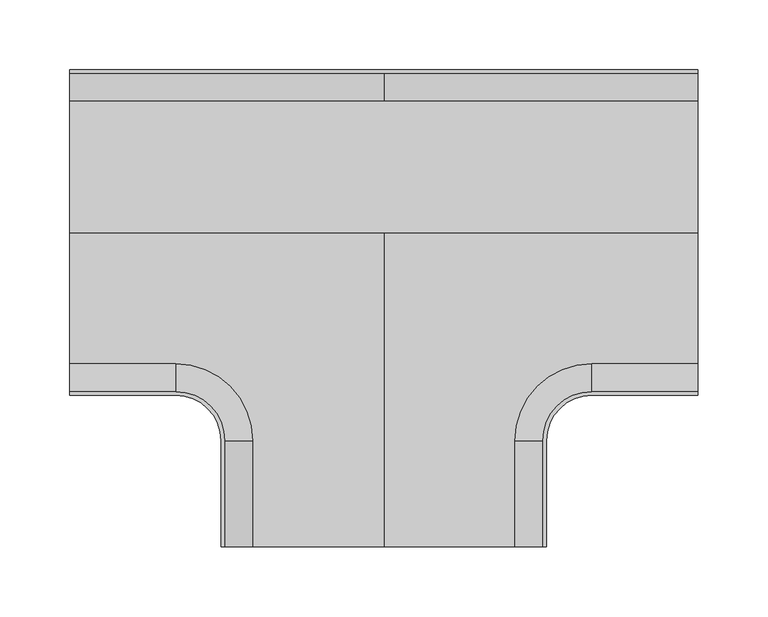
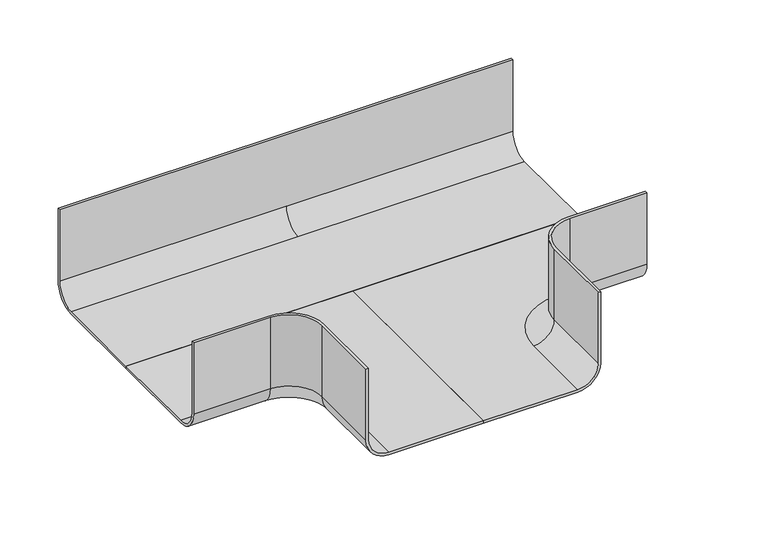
"""IFC4 building model written with IfcOpenShell, lengths in millimetres: cable carrier fitting geometry, ССT_Hyperline_FBTR-TEE Ответвитель Т-образный пластиковый : Ответвитель Т-образный пластиковый."""

import ifcopenshell
import ifcopenshell.guid

model = None  # the IFC model being written
_history = None  # IfcOwnerHistory: only IFC2X3 demands one
_inside = {}  # id of a spatial element -> (the spatial element, [elements in it])
_under = {}  # id of a project, library or spatial element -> (it, [spatial elements below it])
_declared = {}  # id of a project -> (the project, [libraries it declares])
_typed = {}  # id of a type object -> (the type object, [elements of that type])
_made_of = {}  # id of a material, layer set ... -> (it, [elements and type objects made of it])


def new_model(schema):
    """Start an empty IFC model of exactly this schema.

    Asked for "IFC4X3", IfcOpenShell would pick the latest addendum, in which some entities
    have other attributes; the version numbers below select the first issue.
    IFC2X3 requires an IfcOwnerHistory on every rooted entity: one is made here for all.
    """
    global model, _history
    if schema == "IFC4X3":
        model = ifcopenshell.file(schema_version=(4, 3, 0, 0))
    else:
        model = ifcopenshell.file(schema=schema)
    _inside.clear()
    _under.clear()
    _declared.clear()
    _typed.clear()
    _made_of.clear()
    _history = None
    if model.schema == "IFC2X3":
        org = make("IfcOrganization", Name="unknown")
        user = make(
            "IfcPersonAndOrganization",
            ThePerson=make("IfcPerson", FamilyName="unknown"),
            TheOrganization=org,
        )
        app = make(
            "IfcApplication",
            ApplicationDeveloper=org,
            Version="unknown",
            ApplicationFullName="unknown",
            ApplicationIdentifier="unknown",
        )
        _history = make(
            "IfcOwnerHistory",
            OwningUser=user,
            OwningApplication=app,
            ChangeAction="ADDED",
            CreationDate=0,
        )
    return model


def make(cls, **values):
    """One entity of the class cls with the attributes given. An attribute that is None is left unset."""
    return model.create_entity(
        cls, **{name: value for name, value in values.items() if value is not None}
    )


def rooted(cls, **values):
    """An entity with a GlobalId (a new one), such as an element, a storey or a relation."""
    return make(cls, GlobalId=ifcopenshell.guid.new(), OwnerHistory=_history, **values)


def si_unit(unit_type, name, prefix=None):
    """IfcSIUnit, for example si_unit("LENGTHUNIT", "METRE", prefix="MILLI")."""
    return make("IfcSIUnit", UnitType=unit_type, Prefix=prefix, Name=name)


def assignment(units):
    """IfcUnitAssignment: the units of a project."""
    return None if units is None else make("IfcUnitAssignment", Units=units)


def point(xyz):
    """IfcCartesianPoint."""
    return None if xyz is None else make("IfcCartesianPoint", Coordinates=xyz)


def direction(xyz):
    """IfcDirection."""
    return None if xyz is None else make("IfcDirection", DirectionRatios=xyz)


def frame(location, z_axis=None, x_axis=None):
    """IfcAxis2Placement3D, a coordinate frame: its origin and axes. An axis left out is left unset."""
    return make(
        "IfcAxis2Placement3D",
        Location=point(location),
        Axis=direction(z_axis),
        RefDirection=direction(x_axis),
    )


def origin():
    """The frame at (0, 0, 0) with its axes left unset."""
    return frame((0.0, 0.0, 0.0))


def place(relative_to, where):
    """IfcLocalPlacement: puts the frame where relative to a parent placement (None: the world)."""
    return make(
        "IfcLocalPlacement", PlacementRelTo=relative_to, RelativePlacement=where
    )


def context(
    kind, dimensions, precision=None, world=None, true_north=None, identifier=None
):
    """IfcGeometricRepresentationContext, for example the 3D "Model" context."""
    return make(
        "IfcGeometricRepresentationContext",
        ContextIdentifier=identifier,
        ContextType=kind,
        CoordinateSpaceDimension=dimensions,
        Precision=precision,
        WorldCoordinateSystem=world,
        TrueNorth=true_north,
    )


def project(units=None, contexts=None):
    """IfcProject with its units and contexts."""
    return rooted(
        "IfcProject",
        Name="project",
        RepresentationContexts=contexts,
        UnitsInContext=assignment(units),
    )


def spatial(cls, under=None, at=None, **own):
    """A site, building, storey or space (cls), placed at a placement, below another one or the project."""
    s = rooted(cls, ObjectPlacement=at, **own)
    if under is not None:
        _under.setdefault(under.id(), (under, []))[1].append(s)
    return s


def polyline(points):
    """IfcPolyline through the points."""
    return make("IfcPolyline", Points=[point(p) for p in points])


def circle_curve(where, radius):
    """IfcCircle in the frame where."""
    return make("IfcCircle", Position=where, Radius=radius)


def ellipse_curve(where, semi_axis1, semi_axis2):
    """IfcEllipse in the frame where."""
    return make(
        "IfcEllipse", Position=where, SemiAxis1=semi_axis1, SemiAxis2=semi_axis2
    )


def trimmed(basis, trim1, trim2, sense, master):
    """IfcTrimmedCurve: the piece of a basis curve between two trims."""
    return make(
        "IfcTrimmedCurve",
        BasisCurve=basis,
        Trim1=trim1,
        Trim2=trim2,
        SenseAgreement=sense,
        MasterRepresentation=master,
    )


def shape(context_of_items, identifier, shape_type, items):
    """IfcShapeRepresentation: the items that make up one representation, for example the "Body"."""
    return make(
        "IfcShapeRepresentation",
        ContextOfItems=context_of_items,
        RepresentationIdentifier=identifier,
        RepresentationType=shape_type,
        Items=items,
    )


def source(mapping_origin, context_of_items, identifier, shape_type, items):
    """IfcRepresentationMap: a shape defined once, which mapped items show again and again."""
    return make(
        "IfcRepresentationMap",
        MappingOrigin=mapping_origin,
        MappedRepresentation=shape(context_of_items, identifier, shape_type, items),
    )


def transform(
    local_origin,
    x_axis=None,
    y_axis=None,
    z_axis=None,
    scale=None,
    scale2=None,
    scale3=None,
    uniform=True,
):
    """IfcCartesianTransformationOperator3D, or its non-uniform kind. x_axis, y_axis, z_axis: its Axis1, 2, 3."""
    if uniform:
        return make(
            "IfcCartesianTransformationOperator3D",
            Axis1=direction(x_axis),
            Axis2=direction(y_axis),
            LocalOrigin=point(local_origin),
            Scale=scale,
            Axis3=direction(z_axis),
        )
    return make(
        "IfcCartesianTransformationOperator3DnonUniform",
        Axis1=direction(x_axis),
        Axis2=direction(y_axis),
        LocalOrigin=point(local_origin),
        Scale=scale,
        Axis3=direction(z_axis),
        Scale2=scale2,
        Scale3=scale3,
    )


def mapped(mapping_source, mapping_target):
    """IfcMappedItem: shows the shape of a source again, moved by a transform."""
    return make(
        "IfcMappedItem", MappingSource=mapping_source, MappingTarget=mapping_target
    )


def made_of(thing, what):
    """Note that an element or type object is made of a material, layer set ...; save() writes the relation."""
    if what is not None:
        _made_of.setdefault(what.id(), (what, []))[1].append(thing)
    return thing


def element(
    cls,
    number,
    at=None,
    inside=None,
    cuts=None,
    type_object=None,
    material=None,
    context=None,
    identifier="Body",
    shape_type=None,
    held_by="IfcProductDefinitionShape",
    body=None,
    shapes=None,
    **own,
):
    """One element of the class cls, such as IfcWall. Its Tag is "e" and its number.

    at: its placement. inside: the storey or other place that contains it. cuts: it is an
    opening in that element (IfcRelVoidsElement). A single representation is given by context,
    identifier, shape_type and body (its items); several are given by shapes. held_by: the class
    of the entity that holds the representations. save() writes the other relations.
    """
    e = rooted(cls, Tag="e%d" % number, ObjectPlacement=at, **own)
    if body is not None:
        shapes = [shape(context, identifier, shape_type, body)]
    if shapes is not None:
        e.Representation = make(held_by, Representations=shapes)
    if inside is not None:
        _inside.setdefault(inside.id(), (inside, []))[1].append(e)
    if cuts is not None:
        rooted(
            "IfcRelVoidsElement", RelatingBuildingElement=cuts, RelatedOpeningElement=e
        )
    if type_object is not None:
        _typed.setdefault(type_object.id(), (type_object, []))[1].append(e)
    return made_of(e, material)


def aggregate(whole, parts):
    """IfcRelAggregates: a whole, such as a stair, and the parts it consists of."""
    return rooted("IfcRelAggregates", RelatingObject=whole, RelatedObjects=parts)


def save(model, path):
    """Write the relations noted so far, then the file.

    IfcRelAggregates (storeys below a building ...), IfcRelContainedInSpatialStructure (elements
    in a storey), IfcRelDefinesByType, IfcRelAssociatesMaterial and IfcRelDeclares: one each for
    every whole, place, type object, material and project.
    """
    for whole, parts in _under.values():
        aggregate(whole, parts)
    for where, things in _inside.values():
        rooted(
            "IfcRelContainedInSpatialStructure",
            RelatedElements=things,
            RelatingStructure=where,
        )
    for kind, things in _typed.values():
        rooted("IfcRelDefinesByType", RelatedObjects=things, RelatingType=kind)
    for what, things in _made_of.values():
        rooted("IfcRelAssociatesMaterial", RelatedObjects=things, RelatingMaterial=what)
    for by, libraries in _declared.values():
        rooted("IfcRelDeclares", RelatingContext=by, RelatedDefinitions=libraries)
    model.write(path)


def plane_surface(at):
    """IfcPlane: the flat surface through the origin of the frame at, square to its z axis."""
    return make("IfcPlane", Position=at)


def cylinder_surface(at, radius):
    """IfcCylindricalSurface: all points at the distance radius from the z axis of the frame at."""
    return make("IfcCylindricalSurface", Position=at, Radius=radius)


def revolved_surface(curve, axis_point, axis_direction):
    """IfcSurfaceOfRevolution: the curve turned about the line through axis_point along axis_direction."""
    return make(
        "IfcSurfaceOfRevolution",
        SweptCurve=make("IfcArbitraryOpenProfileDef", ProfileType="CURVE", Curve=curve),
        AxisPosition=make("IfcAxis1Placement", Location=point(axis_point), Axis=direction(axis_direction)),
    )


def advanced_brep(points, edges, surfaces, faces):
    """IfcAdvancedBrep: a solid bounded by faces that lie on surfaces and meet in shared edges.

    An edge is (start, end): straight between two places in points (the first is 0);
    or (start, end, curve); or (start, end, curve, False) where it runs against its curve.
    A face is (place in surfaces, loops), or (place, loops, False) where it looks against
    its surface's normal. A loop lists edges by number (the first is 1), with a minus sign
    where the edge is run from its end to its start. The first loop is the outer one.
    """
    corners = [point(p) for p in points]
    vertices = [make("IfcVertexPoint", VertexGeometry=c) for c in corners]
    made = []
    for start, end, *more in edges:
        made.append(
            make(
                "IfcEdgeCurve",
                EdgeStart=vertices[start],
                EdgeEnd=vertices[end],
                EdgeGeometry=more[0] if more else make("IfcPolyline", Points=[corners[start], corners[end]]),
                SameSense=more[1] if len(more) > 1 else True,
            )
        )
    hull = []
    for where, loops, *sense in faces:
        bounds = []
        for j, loop in enumerate(loops):
            ring = [make("IfcOrientedEdge", EdgeElement=made[abs(k) - 1], Orientation=k > 0) for k in loop]
            bounds.append(
                make(
                    "IfcFaceOuterBound" if j == 0 else "IfcFaceBound",
                    Bound=make("IfcEdgeLoop", EdgeList=ring),
                    Orientation=True,
                )
            )
        hull.append(make("IfcAdvancedFace", Bounds=bounds, FaceSurface=surfaces[where], SameSense=sense[0] if sense else True))
    return make("IfcAdvancedBrep", Outer=make("IfcClosedShell", CfsFaces=hull))


def cable_carrier_fitting_287ba553(model_context):
    return source(origin(), model_context, "Body", "AdvancedBrep", [
        advanced_brep(
        [(-225.0, 116.54, -25.0), (-225.0, 94.0, -47.54), (-225.0, 0.0, -47.54), (-225.0, 0.0, -45.0), (-225.0, 94.0, -45.0), (-225.0, 114.0, -25.0), (-225.0, 114.0, 50.0), (-225.0, 116.54, 50.0), (0.0, 116.54, -25.0), (0.0, 94.0, -47.54), (225.0, 94.0, -47.54), (225.0, 0.0, -47.54), (225.0, 0.0, -45.0), (225.0, 94.0, -45.0), (0.0, 94.0, -45.0), (0.0, 114.0, -25.0), (225.0, 114.0, -25.0), (225.0, 114.0, 50.0), (225.0, 116.54, 50.0), (225.0, 116.54, -25.0)],
        [
            (0, 1, circle_curve(frame((-225.0, 94.0, -25.0), z_axis=(-1.0, 0.0, 0.0), x_axis=(0.0, 1.0, 0.0)), 22.54)),
            (1, 2),
            (2, 3),
            (3, 4),
            (4, 5, circle_curve(frame((-225.0, 94.0, -25.0), z_axis=(1.0, 0.0, 0.0), x_axis=(0.0, 1.0, 0.0)), 20.0)),
            (5, 6),
            (6, 7),
            (7, 0),
            (0, 8),
            (8, 9, circle_curve(frame((0.0, 94.0, -25.0), z_axis=(-1.0, 0.0, 0.0), x_axis=(0.0, 1.0, 0.0)), 22.54)),
            (9, 1),
            (9, 10),
            (10, 11),
            (11, 2),
            (11, 12),
            (12, 3),
            (12, 13),
            (13, 14),
            (14, 4),
            (14, 15, circle_curve(frame((0.0, 94.0, -25.0), z_axis=(1.0, 0.0, 0.0), x_axis=(0.0, 1.0, 0.0)), 20.0)),
            (15, 5),
            (15, 16),
            (16, 17),
            (17, 6),
            (7, 18),
            (18, 19),
            (19, 8),
            (18, 17),
            (16, 13, circle_curve(frame((225.0, 94.0, -25.0), z_axis=(-1.0, 0.0, 0.0), x_axis=(0.0, 1.0, 0.0)), 20.0)),
            (10, 19, circle_curve(frame((225.0, 94.0, -25.0), z_axis=(1.0, 0.0, 0.0), x_axis=(0.0, 1.0, 0.0)), 22.54)),
        ],
        [
            plane_surface(frame((-225.0, 114.0, 2.5), z_axis=(-1.0, 0.0, 0.0), x_axis=(0.0, 0.0, 1.0))),
            cylinder_surface(frame((-225.0, 94.0, -25.0), z_axis=(-1.0, 0.0, 0.0), x_axis=(0.0, 1.0, 0.0)), 22.54),
            plane_surface(frame((-225.0, 94.0, -47.54), z_axis=(0.0, 0.0, -1.0), x_axis=(1.0, 0.0, 0.0))),
            plane_surface(frame((-225.0, 0.0, -47.54), z_axis=(0.0, -1.0, 0.0), x_axis=(1.0, 0.0, 0.0))),
            plane_surface(frame((-225.0, 0.0, -45.0), z_axis=(0.0, 0.0, 1.0), x_axis=(1.0, 0.0, 0.0))),
            revolved_surface(polyline([(0.0, 114.0, -25.0), (-225.0, 114.0, -25.0)]), (-225.0, 94.0, -25.0), (1.0, 0.0, 0.0)),
            plane_surface(frame((-225.0, 114.0, -25.0), z_axis=(0.0, -1.0, 0.0), x_axis=(1.0, 0.0, 0.0))),
            plane_surface(frame((-225.0, 116.54, 50.0), z_axis=(0.0, 1.0, 0.0), x_axis=(1.0, 0.0, 0.0))),
            plane_surface(frame((225.0, 114.0, 2.5), z_axis=(1.0, 0.0, 0.0), x_axis=(0.0, 0.0, 1.0))),
            plane_surface(frame((-225.0, 114.0, 50.0), z_axis=(0.0, 0.0, 1.0), x_axis=(1.0, 0.0, 0.0))),
            cylinder_surface(frame((0.0, 94.0, -25.0), z_axis=(-1.0, 0.0, 0.0), x_axis=(0.0, 1.0, 0.0)), 22.54),
            revolved_surface(polyline([(225.0, 114.0, -25.0), (0.0, 114.0, -25.0)]), (0.0, 94.0, -25.0), (1.0, 0.0, 0.0)),
        ],
        [
            (0, [[1, 2, 3, 4, 5, 6, 7, 8]]),
            (1, [[-1, 9, 10, 11]]),
            (2, [[-2, -11, 12, 13, 14]]),
            (3, [[-3, -14, 15, 16]]),
            (4, [[-4, -16, 17, 18, 19]]),
            (5, [[-5, -19, 20, 21]]),
            (6, [[-6, -21, 22, 23, 24]]),
            (7, [[-8, 25, 26, 27, -9]]),
            (8, [[-26, 28, -23, 29, -17, -15, -13, 30]]),
            (9, [[-25, -7, -24, -28]]),
            (10, [[-10, -27, -30, -12]]),
            (11, [[-20, -18, -29, -22]]),
        ],
    ),
        advanced_brep(
        [(-225.0, -116.54, -25.0), (-225.0, -116.54, 50.0), (-225.0, -114.0, 50.0), (-225.0, -114.0, -25.0), (-225.0, -94.0, -45.0), (-225.0, 0.0, -45.0), (-225.0, 0.0, -47.54), (-225.0, -94.0, -47.54), (-149.0, -94.0, -47.54), (-149.0, -116.54, -25.0), (-149.0, -114.0, -25.0), (-149.0, -94.0, -45.0), (-149.0, -114.0, 50.0), (-149.0, -116.54, 50.0), (-116.54, -149.0, 50.0), (-116.54, -225.0, 50.0), (-114.0, -225.0, 50.0), (-114.0, -149.0, 50.0), (-94.0, -149.0, -47.54), (-116.54, -149.0, -25.0), (-114.0, -149.0, -25.0), (-94.0, -149.0, -45.0), (0.0, -225.0, -47.54), (0.0, -225.0, -45.0), (-94.0, -225.0, -45.0), (-114.0, -225.0, -25.0), (-116.54, -225.0, -25.0), (-94.0, -225.0, -47.54), (0.0, 0.0, -45.0), (0.0, 0.0, -47.54)],
        [
            (0, 1),
            (1, 2),
            (2, 3),
            (3, 4, circle_curve(frame((-225.0, -94.0, -25.0), z_axis=(1.0, 0.0, 0.0), x_axis=(0.0, -1.0, 0.0)), 20.0)),
            (4, 5),
            (5, 6),
            (6, 7),
            (7, 0, circle_curve(frame((-225.0, -94.0, -25.0), z_axis=(-1.0, 0.0, 0.0), x_axis=(0.0, -1.0, 0.0)), 22.54)),
            (7, 8),
            (8, 9, circle_curve(frame((-149.0, -94.0, -25.0), z_axis=(-1.0, 0.0, 0.0), x_axis=(0.0, -1.0, 0.0)), 22.54)),
            (9, 0),
            (3, 10),
            (10, 11, circle_curve(frame((-149.0, -94.0, -25.0), z_axis=(1.0, 0.0, 0.0), x_axis=(0.0, -1.0, 0.0)), 20.0)),
            (11, 4),
            (2, 12),
            (12, 10),
            (1, 13),
            (13, 14, circle_curve(frame((-149.0, -149.0, 50.0), z_axis=(0.0, 0.0, -1.0), x_axis=(0.0, 1.0, 0.0)), 32.46)),
            (14, 15),
            (15, 16),
            (16, 17),
            (17, 12, circle_curve(frame((-149.0, -149.0, 50.0), z_axis=(0.0, 0.0, 1.0), x_axis=(0.0, 1.0, 0.0)), 35.0)),
            (9, 13),
            (8, 18, circle_curve(frame((-149.0, -149.0, -47.54), z_axis=(0.0, 0.0, -1.0), x_axis=(0.0, 1.0, 0.0)), 55.0)),
            (18, 19, circle_curve(frame((-94.0, -149.0, -25.0), z_axis=(0.0, 1.0, 0.0), x_axis=(-1.0, 0.0, 0.0)), 22.54)),
            (19, 9, circle_curve(frame((-149.0, -149.0, -25.0), z_axis=(0.0, 0.0, 1.0), x_axis=(0.0, 1.0, 0.0)), 32.46)),
            (10, 20, circle_curve(frame((-149.0, -149.0, -25.0), z_axis=(0.0, 0.0, -1.0), x_axis=(0.0, 1.0, 0.0)), 35.0)),
            (20, 21, circle_curve(frame((-94.0, -149.0, -25.0), z_axis=(0.0, -1.0, 0.0), x_axis=(-1.0, 0.0, 0.0)), 20.0)),
            (21, 11, circle_curve(frame((-149.0, -149.0, -45.0), z_axis=(0.0, 0.0, 1.0), x_axis=(0.0, 1.0, 0.0)), 55.0)),
            (17, 20),
            (19, 14),
            (22, 23),
            (23, 24),
            (24, 25, circle_curve(frame((-94.0, -225.0, -25.0), z_axis=(0.0, 1.0, 0.0), x_axis=(-1.0, 0.0, 0.0)), 20.0)),
            (25, 16),
            (15, 26),
            (26, 27, circle_curve(frame((-94.0, -225.0, -25.0), z_axis=(0.0, -1.0, 0.0), x_axis=(-1.0, 0.0, 0.0)), 22.54)),
            (27, 22),
            (26, 19),
            (18, 27),
            (20, 25),
            (24, 21),
            (23, 28),
            (28, 5),
            (6, 29),
            (29, 22),
            (28, 29),
        ],
        [
            plane_surface(frame((-225.0, -114.0, 0.0), z_axis=(-1.0, 0.0, 0.0), x_axis=(0.0, 0.0, 1.0))),
            cylinder_surface(frame((-225.0, -94.0, -25.0), z_axis=(-1.0, 0.0, 0.0), x_axis=(0.0, -1.0, 0.0)), 22.54),
            revolved_surface(polyline([(-149.0, -114.0, -25.0), (-225.0, -114.0, -25.0)]), (-225.0, -94.0, -25.0), (1.0, 0.0, 0.0)),
            plane_surface(frame((-225.0, -114.0, -25.0), z_axis=(0.0, 1.0, 0.0), x_axis=(1.0, 0.0, 0.0))),
            plane_surface(frame((-225.0, -114.0, 50.0), z_axis=(0.0, 0.0, 1.0), x_axis=(1.0, 0.0, 0.0))),
            plane_surface(frame((-225.0, -116.54, 50.0), z_axis=(0.0, -1.0, 0.0), x_axis=(1.0, 0.0, 0.0))),
            revolved_surface(trimmed(ellipse_curve(frame((-149.0, -94.0, -25.0), z_axis=(1.0, 0.0, 0.0), x_axis=(0.0, -1.0, 0.0)), 22.54, 22.54), [point((-149.0, -116.54, -25.0))], [point((-149.0, -94.0, -47.54))], True, "CARTESIAN"), (-149.0, -149.0, 0.0), (0.0, 0.0, 1.0)),
            revolved_surface(trimmed(ellipse_curve(frame((-149.0, -94.0, -25.0), z_axis=(-1.0, 0.0, 0.0), x_axis=(0.0, -1.0, 0.0)), 20.0, 20.0), [point((-149.0, -94.0, -45.0))], [point((-149.0, -114.0, -25.0))], True, "CARTESIAN"), (-149.0, -149.0, 0.0), (0.0, 0.0, 1.0)),
            cylinder_surface(frame((-149.0, -149.0, 0.0), z_axis=(0.0, 0.0, 1.0), x_axis=(0.0, 1.0, 0.0)), 35.0),
            revolved_surface(polyline([(-149.0, -116.53999999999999, 50.0), (-149.0, -116.53999999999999, -25.0)]), (-149.0, -149.0, 0.0), (0.0, 0.0, 1.0)),
            plane_surface(frame((-114.0, -225.0, 0.0), z_axis=(0.0, -1.0, 0.0), x_axis=(0.0, 0.0, 1.0))),
            cylinder_surface(frame((-94.0, -149.0, -25.0), z_axis=(0.0, 1.0, 0.0), x_axis=(-1.0, 0.0, 0.0)), 22.54),
            revolved_surface(polyline([(-114.0, -225.0, -25.0), (-114.0, -149.0, -25.0)]), (-94.0, -149.0, -25.0), (0.0, -1.0, 0.0)),
            plane_surface(frame((-114.0, -149.0, -25.0), z_axis=(1.0, 0.0, 0.0), x_axis=(0.0, -1.0, 0.0))),
            plane_surface(frame((-116.54, -149.0, 50.0), z_axis=(-1.0, 0.0, 0.0), x_axis=(0.0, -1.0, 0.0))),
            plane_surface(frame((0.0, -149.0, -45.0), z_axis=(0.0, 0.0, 1.0), x_axis=(0.0, 1.0, 0.0))),
            plane_surface(frame((0.0, -149.0, -47.54), z_axis=(0.0, 0.0, -1.0), x_axis=(0.0, -1.0, 0.0))),
            plane_surface(frame((-149.0, 0.0, -45.0), z_axis=(0.0, 1.0, 0.0), x_axis=(0.0, 0.0, -1.0))),
            plane_surface(frame((0.0, 0.0, -45.0), z_axis=(1.0, 0.0, 0.0), x_axis=(0.0, 0.0, -1.0))),
        ],
        [
            (0, [[1, 2, 3, 4, 5, 6, 7, 8]]),
            (1, [[9, 10, 11, -8]]),
            (2, [[12, 13, 14, -4]]),
            (3, [[15, 16, -12, -3]]),
            (4, [[17, 18, 19, 20, 21, 22, -15, -2]]),
            (5, [[-11, 23, -17, -1]]),
            (6, [[24, 25, 26, -10]]),
            (7, [[-13, 27, 28, 29]]),
            (8, [[-22, 30, -27, -16]]),
            (9, [[-23, -26, 31, -18]]),
            (10, [[32, 33, 34, 35, -20, 36, 37, 38]]),
            (11, [[-37, 39, -25, 40]]),
            (12, [[-28, 41, -34, 42]]),
            (13, [[-35, -41, -30, -21]]),
            (14, [[-31, -39, -36, -19]]),
            (15, [[43, 44, -5, -14, -29, -42, -33]]),
            (16, [[45, 46, -38, -40, -24, -9, -7]]),
            (17, [[47, -45, -6, -44]]),
            (18, [[-32, -46, -47, -43]]),
        ],
    ),
        advanced_brep(
        [(225.0, -116.54, -25.0), (225.0, -94.0, -47.54), (225.0, 0.0, -47.54), (225.0, 0.0, -45.0), (225.0, -94.0, -45.0), (225.0, -114.0, -25.0), (225.0, -114.0, 50.0), (225.0, -116.54, 50.0), (149.0, -116.54, -25.0), (149.0, -94.0, -47.54), (149.0, -94.0, -45.0), (149.0, -114.0, -25.0), (149.0, -114.0, 50.0), (114.0, -149.0, 50.0), (114.0, -225.0, 50.0), (116.54, -225.0, 50.0), (116.54, -149.0, 50.0), (149.0, -116.54, 50.0), (116.54, -149.0, -25.0), (94.0, -149.0, -47.54), (94.0, -149.0, -45.0), (114.0, -149.0, -25.0), (0.0, -225.0, -47.54), (94.0, -225.0, -47.54), (116.54, -225.0, -25.0), (114.0, -225.0, -25.0), (94.0, -225.0, -45.0), (0.0, -225.0, -45.0), (0.0, 0.0, -45.0), (0.0, 0.0, -47.54)],
        [
            (0, 1, circle_curve(frame((225.0, -94.0, -25.0), z_axis=(1.0, 0.0, 0.0), x_axis=(0.0, -1.0, 0.0)), 22.54)),
            (1, 2),
            (2, 3),
            (3, 4),
            (4, 5, circle_curve(frame((225.0, -94.0, -25.0), z_axis=(-1.0, 0.0, 0.0), x_axis=(0.0, -1.0, 0.0)), 20.0)),
            (5, 6),
            (6, 7),
            (7, 0),
            (0, 8),
            (8, 9, circle_curve(frame((149.0, -94.0, -25.0), z_axis=(1.0, 0.0, 0.0), x_axis=(0.0, -1.0, 0.0)), 22.54)),
            (9, 1),
            (4, 10),
            (10, 11, circle_curve(frame((149.0, -94.0, -25.0), z_axis=(-1.0, 0.0, 0.0), x_axis=(0.0, -1.0, 0.0)), 20.0)),
            (11, 5),
            (11, 12),
            (12, 6),
            (12, 13, circle_curve(frame((149.0, -149.0, 50.0), z_axis=(0.0, 0.0, 1.0), x_axis=(0.0, 1.0, 0.0)), 35.0)),
            (13, 14),
            (14, 15),
            (15, 16),
            (16, 17, circle_curve(frame((149.0, -149.0, 50.0), z_axis=(0.0, 0.0, -1.0), x_axis=(0.0, 1.0, 0.0)), 32.46)),
            (17, 7),
            (17, 8),
            (8, 18, circle_curve(frame((149.0, -149.0, -25.0), z_axis=(0.0, 0.0, 1.0), x_axis=(0.0, 1.0, 0.0)), 32.46)),
            (18, 19, circle_curve(frame((94.0, -149.0, -25.0), z_axis=(0.0, 1.0, 0.0), x_axis=(1.0, 0.0, 0.0)), 22.54)),
            (19, 9, circle_curve(frame((149.0, -149.0, -47.54), z_axis=(0.0, 0.0, -1.0), x_axis=(0.0, 1.0, 0.0)), 55.0)),
            (10, 20, circle_curve(frame((149.0, -149.0, -45.0), z_axis=(0.0, 0.0, 1.0), x_axis=(0.0, 1.0, 0.0)), 55.0)),
            (20, 21, circle_curve(frame((94.0, -149.0, -25.0), z_axis=(0.0, -1.0, 0.0), x_axis=(1.0, 0.0, 0.0)), 20.0)),
            (21, 11, circle_curve(frame((149.0, -149.0, -25.0), z_axis=(0.0, 0.0, -1.0), x_axis=(0.0, 1.0, 0.0)), 35.0)),
            (21, 13),
            (16, 18),
            (22, 23),
            (23, 24, circle_curve(frame((94.0, -225.0, -25.0), z_axis=(0.0, -1.0, 0.0), x_axis=(1.0, 0.0, 0.0)), 22.54)),
            (24, 15),
            (14, 25),
            (25, 26, circle_curve(frame((94.0, -225.0, -25.0), z_axis=(0.0, 1.0, 0.0), x_axis=(1.0, 0.0, 0.0)), 20.0)),
            (26, 27),
            (27, 22),
            (23, 19),
            (18, 24),
            (20, 26),
            (25, 21),
            (3, 28),
            (28, 27),
            (22, 29),
            (29, 2),
            (29, 28),
        ],
        [
            plane_surface(frame((225.0, -114.0, 0.0), z_axis=(1.0, 0.0, 0.0), x_axis=(0.0, 0.0, 1.0))),
            cylinder_surface(frame((225.0, -94.0, -25.0), z_axis=(1.0, 0.0, 0.0), x_axis=(0.0, -1.0, 0.0)), 22.54),
            revolved_surface(polyline([(149.0, -114.0, -25.0), (225.0, -114.0, -25.0)]), (225.0, -94.0, -25.0), (-1.0, 0.0, 0.0)),
            plane_surface(frame((225.0, -114.0, -25.0), z_axis=(0.0, 1.0, 0.0), x_axis=(-1.0, 0.0, 0.0))),
            plane_surface(frame((225.0, -114.0, 50.0), z_axis=(0.0, 0.0, 1.0), x_axis=(-1.0, 0.0, 0.0))),
            plane_surface(frame((225.0, -116.54, 50.0), z_axis=(0.0, -1.0, 0.0), x_axis=(-1.0, 0.0, 0.0))),
            revolved_surface(trimmed(ellipse_curve(frame((149.0, -94.0, -25.0), z_axis=(1.0, 0.0, 0.0), x_axis=(0.0, -1.0, 0.0)), 22.54, 22.54), [point((149.0, -116.54, -25.0))], [point((149.0, -94.0, -47.54))], True, "CARTESIAN"), (149.0, -149.0, 0.0), (0.0, 0.0, 1.0)),
            revolved_surface(trimmed(ellipse_curve(frame((149.0, -94.0, -25.0), z_axis=(-1.0, 0.0, 0.0), x_axis=(0.0, -1.0, 0.0)), 20.0, 20.0), [point((149.0, -94.0, -45.0))], [point((149.0, -114.0, -25.0))], True, "CARTESIAN"), (149.0, -149.0, 0.0), (0.0, 0.0, 1.0)),
            cylinder_surface(frame((149.0, -149.0, 0.0), z_axis=(0.0, 0.0, 1.0), x_axis=(0.0, 1.0, 0.0)), 35.0),
            revolved_surface(polyline([(149.0, -116.53999999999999, 50.0), (149.0, -116.53999999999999, -25.0)]), (149.0, -149.0, 0.0), (0.0, 0.0, 1.0)),
            plane_surface(frame((114.0, -225.0, 0.0), z_axis=(0.0, -1.0, 0.0), x_axis=(0.0, 0.0, 1.0))),
            cylinder_surface(frame((94.0, -149.0, -25.0), z_axis=(0.0, 1.0, 0.0), x_axis=(1.0, 0.0, 0.0)), 22.54),
            revolved_surface(polyline([(114.0, -225.0, -25.0), (114.0, -149.0, -25.0)]), (94.0, -149.0, -25.0), (0.0, -1.0, 0.0)),
            plane_surface(frame((114.0, -149.0, -25.0), z_axis=(-1.0, 0.0, 0.0), x_axis=(0.0, -1.0, 0.0))),
            plane_surface(frame((116.54, -149.0, 50.0), z_axis=(1.0, 0.0, 0.0), x_axis=(0.0, -1.0, 0.0))),
            plane_surface(frame((0.0, -149.0, -45.0), z_axis=(0.0, 0.0, 1.0), x_axis=(0.0, 1.0, 0.0))),
            plane_surface(frame((0.0, -149.0, -47.54), z_axis=(0.0, 0.0, -1.0), x_axis=(0.0, -1.0, 0.0))),
            plane_surface(frame((149.0, 0.0, -45.0), z_axis=(0.0, 1.0, 0.0), x_axis=(0.0, 0.0, -1.0))),
            plane_surface(frame((0.0, 0.0, -45.0), z_axis=(-1.0, 0.0, 0.0), x_axis=(0.0, 0.0, -1.0))),
        ],
        [
            (0, [[1, 2, 3, 4, 5, 6, 7, 8]]),
            (1, [[-1, 9, 10, 11]]),
            (2, [[-5, 12, 13, 14]]),
            (3, [[-6, -14, 15, 16]]),
            (4, [[-7, -16, 17, 18, 19, 20, 21, 22]]),
            (5, [[-8, -22, 23, -9]]),
            (6, [[-10, 24, 25, 26]]),
            (7, [[27, 28, 29, -13]]),
            (8, [[-15, -29, 30, -17]]),
            (9, [[-21, 31, -24, -23]]),
            (10, [[32, 33, 34, -19, 35, 36, 37, 38]]),
            (11, [[39, -25, 40, -33]]),
            (12, [[41, -36, 42, -28]]),
            (13, [[-18, -30, -42, -35]]),
            (14, [[-20, -34, -40, -31]]),
            (15, [[-37, -41, -27, -12, -4, 43, 44]]),
            (16, [[-2, -11, -26, -39, -32, 45, 46]]),
            (17, [[-43, -3, -46, 47]]),
            (18, [[-44, -47, -45, -38]]),
        ],
    ),
    ])


if __name__ == "__main__":
    model = new_model("IFC4")
    model_context = context("Model", 3, world=origin())
    ifc_project = project(units=[si_unit("LENGTHUNIT", "METRE", prefix="MILLI")], contexts=[model_context])
    site = spatial("IfcSite", under=ifc_project)
    building = spatial("IfcBuilding", under=site)
    placement = place(None, origin())
    cable_carrier_fitting_shape = cable_carrier_fitting_287ba553(model_context)
    element("IfcCableCarrierFitting", 1, ObjectType="ССT_Hyperline_FBTR-TEE Ответвитель Т-образный пластиковый : Ответвитель Т-образный пластиковый", at=placement, inside=building, context=model_context, shape_type="MappedRepresentation", body=[
        mapped(cable_carrier_fitting_shape, transform((0.0, 0.0, 0.0), x_axis=(1.0, 0.0, 0.0), y_axis=(0.0, 1.0, 0.0), z_axis=(0.0, 0.0, 1.0))),
    ])
    save(model, "model.ifc")
